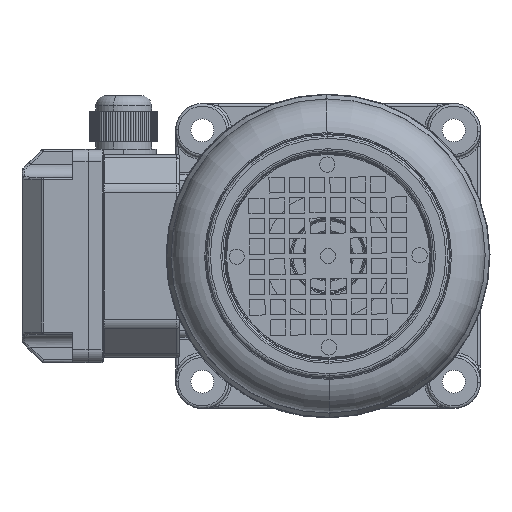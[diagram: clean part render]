
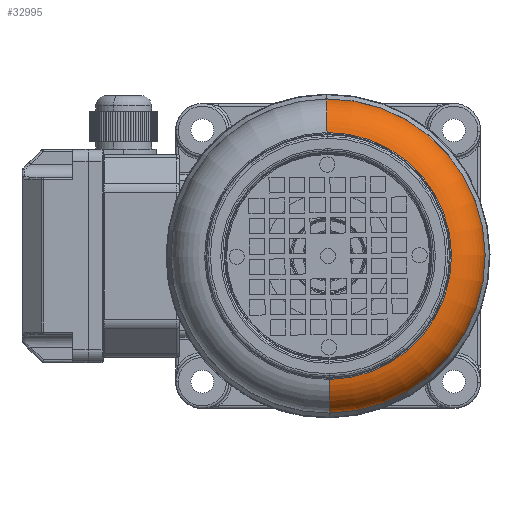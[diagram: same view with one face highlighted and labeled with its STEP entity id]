
A CAD part, front view. The second image highlights one B-rep face of the part: STEP entity #32995.
In plain terms, the highlighted toroidal (fillet/blend) face has major radius 46.75 mm and minor radius 15 mm.
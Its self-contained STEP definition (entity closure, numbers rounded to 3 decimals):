
#402 = EDGE_LOOP ( 'NONE', ( #24283, #22431, #53309, #63420 ) ) ;
#1508 = AXIS2_PLACEMENT_3D ( 'NONE', #44893, #87126, #51018 ) ;
#4186 = DIRECTION ( 'NONE',  ( 0., 0., -1. ) ) ;
#6495 = TOROIDAL_SURFACE ( 'NONE', #40976, 46.75, 15. ) ;
#9182 = AXIS2_PLACEMENT_3D ( 'NONE', #57763, #71383, #21217 ) ;
#10014 = EDGE_CURVE ( 'NONE', #14778, #20729, #26900, .T. ) ;
#10737 = VERTEX_POINT ( 'NONE', #85304 ) ;
#12782 = CARTESIAN_POINT ( 'NONE',  ( 11392.652, -26592.948, -61.75 ) ) ;
#14778 = VERTEX_POINT ( 'NONE', #61779 ) ;
#16796 = CARTESIAN_POINT ( 'NONE',  ( 11392.652, -26592.948, 0. ) ) ;
#20729 = VERTEX_POINT ( 'NONE', #12782 ) ;
#21217 = DIRECTION ( 'NONE',  ( 0., 0., 1. ) ) ;
#22431 = ORIENTED_EDGE ( 'NONE', *, *, #10014, .T. ) ;
#24283 = ORIENTED_EDGE ( 'NONE', *, *, #26949, .T. ) ;
#25669 = CIRCLE ( 'NONE', #76547, 15. ) ;
#26900 = CIRCLE ( 'NONE', #1508, 15. ) ;
#26949 = EDGE_CURVE ( 'NONE', #10737, #14778, #91555, .T. ) ;
#29796 = CIRCLE ( 'NONE', #55324, 61.75 ) ;
#32995 = ADVANCED_FACE ( 'NONE', ( #43052 ), #6495, .T. ) ;
#39793 = CARTESIAN_POINT ( 'NONE',  ( 11392.652, -26592.948, 61.75 ) ) ;
#40152 = VERTEX_POINT ( 'NONE', #39793 ) ;
#40976 = AXIS2_PLACEMENT_3D ( 'NONE', #44003, #51513, #87613 ) ;
#43052 = FACE_OUTER_BOUND ( 'NONE', #402, .T. ) ;
#44003 = CARTESIAN_POINT ( 'NONE',  ( 11392.652, -26592.948, 0. ) ) ;
#44893 = CARTESIAN_POINT ( 'NONE',  ( 11392.652, -26592.948, -46.75 ) ) ;
#46352 = DIRECTION ( 'NONE',  ( 0., -1., 0. ) ) ;
#51018 = DIRECTION ( 'NONE',  ( 0., 0., 1. ) ) ;
#51513 = DIRECTION ( 'NONE',  ( -1., 0., 0. ) ) ;
#52464 = CARTESIAN_POINT ( 'NONE',  ( 11392.652, -26592.948, 46.75 ) ) ;
#52665 = EDGE_CURVE ( 'NONE', #10737, #40152, #25669, .T. ) ;
#53309 = ORIENTED_EDGE ( 'NONE', *, *, #77995, .F. ) ;
#55324 = AXIS2_PLACEMENT_3D ( 'NONE', #16796, #61289, #60354 ) ;
#57763 = CARTESIAN_POINT ( 'NONE',  ( 11407.538, -26592.948, 0. ) ) ;
#60354 = DIRECTION ( 'NONE',  ( 0., 0., 1. ) ) ;
#61289 = DIRECTION ( 'NONE',  ( -1., 0., 0. ) ) ;
#61779 = CARTESIAN_POINT ( 'NONE',  ( 11407.538, -26592.948, -48.591 ) ) ;
#63420 = ORIENTED_EDGE ( 'NONE', *, *, #52665, .F. ) ;
#71383 = DIRECTION ( 'NONE',  ( -1., 0., 0. ) ) ;
#76547 = AXIS2_PLACEMENT_3D ( 'NONE', #52464, #46352, #4186 ) ;
#77995 = EDGE_CURVE ( 'NONE', #40152, #20729, #29796, .T. ) ;
#85304 = CARTESIAN_POINT ( 'NONE',  ( 11407.538, -26592.948, 48.591 ) ) ;
#87126 = DIRECTION ( 'NONE',  ( 0., 1., 0. ) ) ;
#87613 = DIRECTION ( 'NONE',  ( 0., 0., 1. ) ) ;
#91555 = CIRCLE ( 'NONE', #9182, 48.591 ) ;
